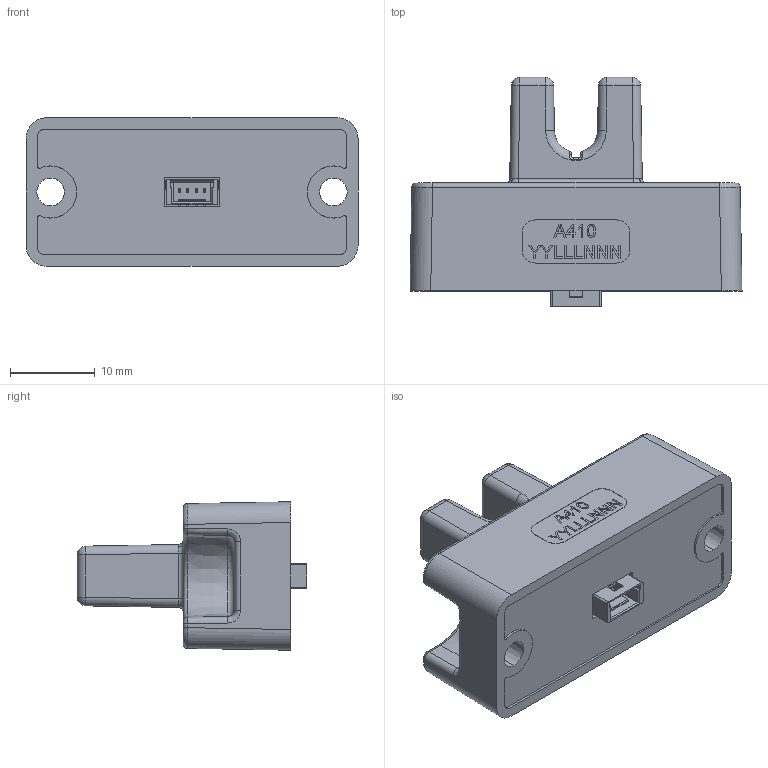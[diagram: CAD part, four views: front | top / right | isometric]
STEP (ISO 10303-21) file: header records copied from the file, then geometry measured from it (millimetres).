
FILE_DESCRIPTION (( 'STEP AP214' ), '1' );
FILE_NAME ('SMD8163-A410_C.STEP', '2021-03-02T20:16:28', ( '' ), ( '' ), 'SwSTEP 2.0', 'SolidWorks 2020', '' );
FILE_SCHEMA (( 'AUTOMOTIVE_DESIGN' ));
Length unit declared in the file: inch
Products named in the file (4): Molex_5013310407; SMD8164-A410_C; SMD8163-A410_C; A410 701-8663_C
Assembly tree (3 placements, depth 2):
  SMD8163-A410_C
    SMD8164-A410_C
    A410 701-8663_C
    Molex_5013310407
Bounding box: 39.08 x 27.02 x 17.47 mm (x, y, z)
Volume: 8464 mm3; surface area: 3848.9 mm2
Topology: 3 solids, 3 shells, 486 faces, 1274 edges, 816 vertices
Faces by surface type: plane 331, cylinder 76, bspline 55, cone 12, sphere 8, torus 4
Entity records: 18008 total; most frequent: CARTESIAN_POINT 4684, ORIENTED_EDGE 2532, DIRECTION 2155, EDGE_CURVE 1266, LINE 975, VECTOR 975, VERTEX_POINT 816, AXIS2_PLACEMENT_3D 590
